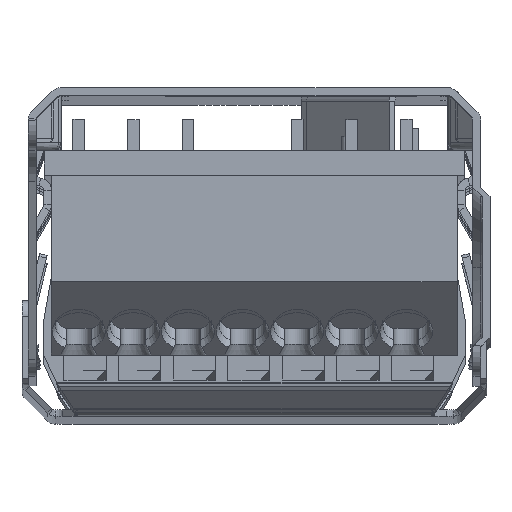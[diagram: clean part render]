
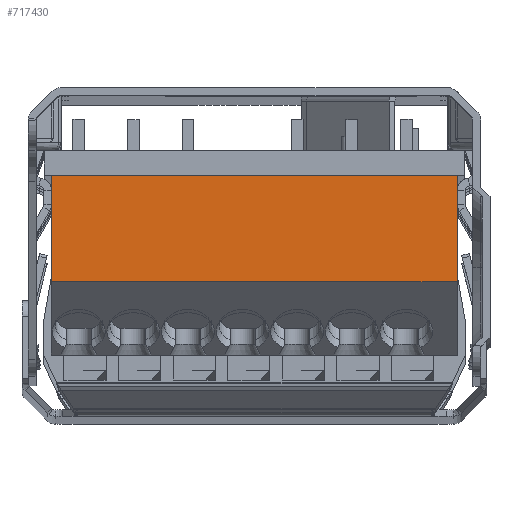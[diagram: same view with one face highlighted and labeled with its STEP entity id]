
A CAD part, top view. The second image highlights one B-rep face of the part: STEP entity #717430.
In plain terms, the highlighted planar face has unit normal (0, 0, 1) as drawn and (-1, 0, 0) by its records, which use the part's own axes.
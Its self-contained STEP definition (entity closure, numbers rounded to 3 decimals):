
#645440=CARTESIAN_POINT('',(0.42,26.45,-0.));
#645450=VERTEX_POINT('',#645440);
#645480=CARTESIAN_POINT('',(0.42,0.,0.));
#645490=DIRECTION('',(0.,1.,0.));
#645500=VECTOR('',#645490,1.);
#645510=LINE('',#645480,#645500);
#645520=CARTESIAN_POINT('',(0.42,0.45,-0.));
#645530=VERTEX_POINT('',#645520);
#645540=EDGE_CURVE('',#645530,#645450,#645510,.T.);
#690280=CARTESIAN_POINT('',(0.42,0.45,6.8));
#690290=VERTEX_POINT('',#690280);
#690320=CARTESIAN_POINT('',(0.42,0.45,6.8));
#690330=DIRECTION('',(0.,1.,0.));
#690340=VECTOR('',#690330,1.);
#690350=LINE('',#690320,#690340);
#690360=CARTESIAN_POINT('',(0.42,26.45,6.8));
#690370=VERTEX_POINT('',#690360);
#690380=EDGE_CURVE('',#690290,#690370,#690350,.T.);
#715040=CARTESIAN_POINT('',(0.42,0.45,0.)
);
#715050=DIRECTION('',(0.,0.,1.));
#715060=VECTOR('',#715050,1.);
#715070=LINE('',#715040,#715060);
#715080=EDGE_CURVE('',#645530,#690290,#715070,.T.);
#715580=CARTESIAN_POINT('',(0.42,26.45,0.))
;
#715590=DIRECTION('',(0.,0.,1.));
#715600=VECTOR('',#715590,1.);
#715610=LINE('',#715580,#715600);
#715620=EDGE_CURVE('',#645450,#690370,#715610,.T.);
#717320=CARTESIAN_POINT('',(0.42,24.95,0.3));
#717330=DIRECTION('',(1.,0.,0.));
#717340=DIRECTION('',(0.,1.,0.));
#717350=AXIS2_PLACEMENT_3D('',#717320,#717330,#717340);
#717360=PLANE('',#717350);
#717370=ORIENTED_EDGE('',*,*,#715620,.F.);
#717380=ORIENTED_EDGE('',*,*,#690380,.T.);
#717390=ORIENTED_EDGE('',*,*,#715080,.T.);
#717400=ORIENTED_EDGE('',*,*,#645540,.F.);
#717410=EDGE_LOOP('',(#717400,#717390,#717380,#717370));
#717420=FACE_OUTER_BOUND('',#717410,.T.);
#717430=ADVANCED_FACE('',(#717420),#717360,.F.);
